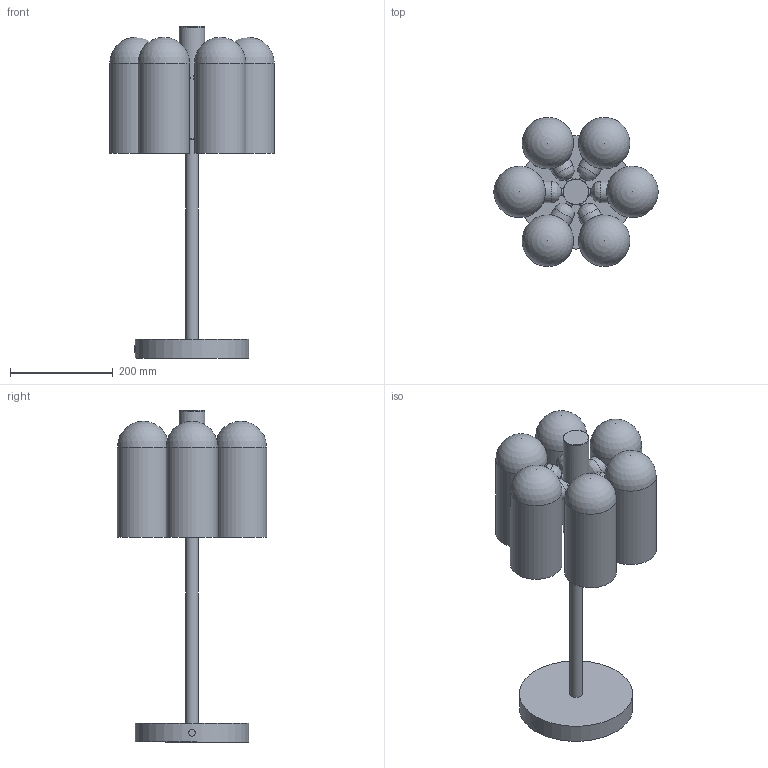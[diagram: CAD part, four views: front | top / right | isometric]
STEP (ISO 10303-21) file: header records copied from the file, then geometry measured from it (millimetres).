
FILE_DESCRIPTION(/* description */ (''),/* implementation_level */ '2;1');
FILE_NAME(/* name */ 'T:\B192 Odyssey Table Lamp 6\Pliki bryłowe handlowe\B192 Odyssey 6 3D files\B192 Odyssey 6.stp',/* time_stamp */ '2022-01-25T14:21:42+01:00',/* author */ ('Mariusz Awariusz'),/* organization */ (''),/* preprocessor_version */ 'ST-DEVELOPER v18.1',/* originating_system */ 'Autodesk Inventor 2022',/* authorisation */ '');
FILE_SCHEMA (('AUTOMOTIVE_DESIGN { 1 0 10303 214 3 1 1 }'));
Length unit declared in the file: millimetre
Products named in the file (1): Odyssey Table Lamp 6 CE v4_na potrzeby plików 3D_jako część
Bounding box: 319.1 x 289.74 x 645 mm (x, y, z)
Volume: 12027584 mm3; surface area: 658668.3 mm2
Topology: 1 solids, 1 shells, 84 faces, 196 edges, 129 vertices
Faces by surface type: cylinder 38, plane 20, bspline 18, sphere 6, cone 2
Full cylindrical faces by diameter (mm): 13 x7, 25 x1, 42 x6, 50 x3, 100 x6, 220 x1
Entity records: 3305 total; most frequent: CARTESIAN_POINT 1449, ORIENTED_EDGE 384, DIRECTION 359, EDGE_CURVE 192, AXIS2_PLACEMENT_3D 164, VERTEX_POINT 129, EDGE_LOOP 105, CIRCLE 97
